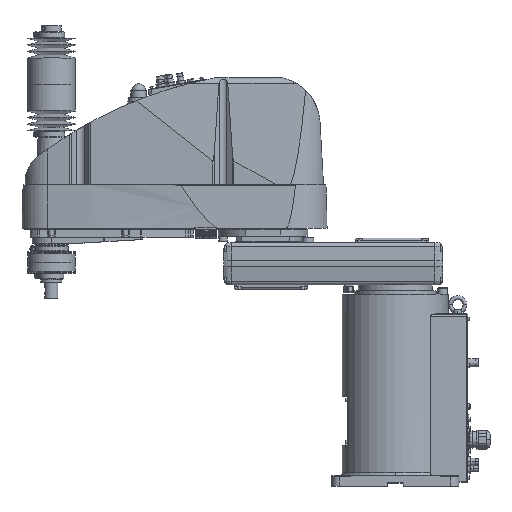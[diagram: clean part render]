
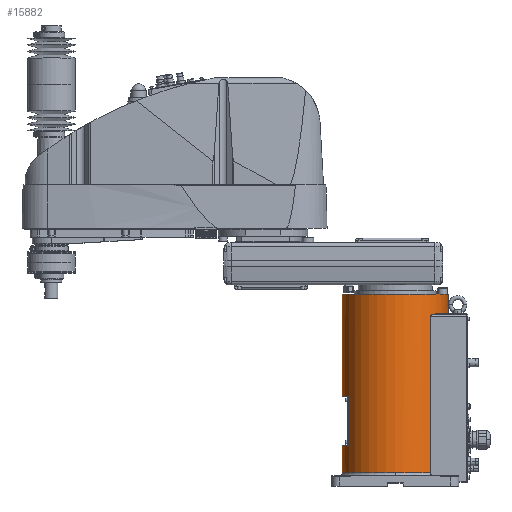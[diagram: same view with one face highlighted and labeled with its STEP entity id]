
A CAD part, top view. The second image highlights one B-rep face of the part: STEP entity #15882.
In plain terms, the highlighted cylindrical face has radius 100 mm (diameter 200 mm), a partial arc.
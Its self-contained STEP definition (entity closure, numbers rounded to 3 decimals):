
#10956 = EDGE_CURVE( '', #28954, #30858, #32714, .T. );
#11918 = EDGE_CURVE( '', #21678, #32656, #33778, .T. );
#12090 = EDGE_CURVE( '', #13368, #28954, #33971, .T. );
#12866 = EDGE_CURVE( '', #29174, #16262, #34843, .T. );
#13368 = VERTEX_POINT( '', #35395 );
#14884 = EDGE_CURVE( '', #19096, #32512, #37093, .T. );
#15882 = ADVANCED_FACE( '', ( #38206 ), #38207, .T. );
#16262 = VERTEX_POINT( '', #38644 );
#16826 = VERTEX_POINT( '', #39275 );
#16960 = EDGE_CURVE( '', #16826, #22530, #39421, .T. );
#17892 = EDGE_CURVE( '', #29956, #32512, #40458, .T. );
#19090 = EDGE_CURVE( '', #26836, #25970, #41776, .T. );
#19096 = VERTEX_POINT( '', #41783 );
#19926 = EDGE_CURVE( '', #25970, #30820, #42709, .T. );
#21662 = EDGE_CURVE( '', #32656, #29174, #44651, .T. );
#21678 = VERTEX_POINT( '', #44667 );
#22530 = VERTEX_POINT( '', #45606 );
#22910 = EDGE_CURVE( '', #30820, #16826, #46022, .T. );
#25970 = VERTEX_POINT( '', #49434 );
#26836 = VERTEX_POINT( '', #50392 );
#28592 = EDGE_CURVE( '', #22530, #32080, #52357, .T. );
#28936 = EDGE_CURVE( '', #30858, #21678, #52733, .T. );
#28954 = VERTEX_POINT( '', #52756 );
#29174 = VERTEX_POINT( '', #52998 );
#29956 = VERTEX_POINT( '', #53865 );
#30820 = VERTEX_POINT( '', #54826 );
#30858 = VERTEX_POINT( '', #54868 );
#31008 = EDGE_CURVE( '', #16262, #19096, #55034, .T. );
#31774 = EDGE_CURVE( '', #32080, #13368, #55891, .T. );
#32080 = VERTEX_POINT( '', #56241 );
#32270 = EDGE_CURVE( '', #29956, #26836, #56452, .T. );
#32512 = VERTEX_POINT( '', #56725 );
#32656 = VERTEX_POINT( '', #56885 );
#32714 = B_SPLINE_CURVE_WITH_KNOTS( '', 3, ( #56948, #56949, #56950, #56951, #56952, #56953, #56954, #56955, #56956, #56957, #56958, #56959, #56960, #56961, #56962, #56963, #56964, #56965 ), .UNSPECIFIED., .F., .F., ( 4, 2, 2, 2, 2, 2, 2, 2, 4 ), ( 14.722, 15.472, 16.222, 16.971, 17.721, 18.842, 19.962, 21.082, 22.202 ), .UNSPECIFIED. );
#33778 = LINE( '', #58561, #58562 );
#33971 = LINE( '', #58823, #58824 );
#34843 = LINE( '', #60133, #60134 );
#35395 = CARTESIAN_POINT( '', ( 66.144, 25., 75. ) );
#37093 = LINE( '', #63490, #63491 );
#38206 = FACE_OUTER_BOUND( '', #65117, .T. );
#38207 = CYLINDRICAL_SURFACE( '', #65118, 100. );
#38644 = CARTESIAN_POINT( '', ( 89.303, 324., 45. ) );
#39275 = CARTESIAN_POINT( '', ( -100., 76.7, 0. ) );
#39421 = LINE( '', #66877, #66878 );
#40458 = CIRCLE( '', #68410, 100. );
#41776 = CIRCLE( '', #70374, 100. );
#41783 = CARTESIAN_POINT( '', ( 100., 324., 0. ) );
#42709 = LINE( '', #71694, #71695 );
#44651 = CIRCLE( '', #74531, 100. );
#44667 = CARTESIAN_POINT( '', ( 75.993, 324., 65. ) );
#45606 = CARTESIAN_POINT( '', ( -100., 25., 0. ) );
#46022 = CIRCLE( '', #76621, 100. );
#49434 = CARTESIAN_POINT( '', ( -88., 169.7, 47.497 ) );
#50392 = CARTESIAN_POINT( '', ( -100., 169.7, 0. ) );
#52357 = CIRCLE( '', #85876, 100. );
#52733 = CIRCLE( '', #86437, 100. );
#52756 = CARTESIAN_POINT( '', ( 66.144, 320., 75. ) );
#52998 = CARTESIAN_POINT( '', ( 89.303, 326., 45. ) );
#53865 = CARTESIAN_POINT( '', ( -100., 363., 0. ) );
#54826 = CARTESIAN_POINT( '', ( -88., 76.7, 47.497 ) );
#54868 = CARTESIAN_POINT( '', ( 70.42, 324., 71. ) );
#55034 = CIRCLE( '', #89936, 100. );
#55891 = CIRCLE( '', #91134, 100. );
#56241 = CARTESIAN_POINT( '', ( 0., 25., 100. ) );
#56452 = LINE( '', #91991, #91992 );
#56725 = CARTESIAN_POINT( '', ( 100., 363., 0. ) );
#56885 = CARTESIAN_POINT( '', ( 75.993, 326., 65. ) );
#56948 = CARTESIAN_POINT( '', ( 66.144, 320., 75. ) );
#56949 = CARTESIAN_POINT( '', ( 66.144, 320.25, 75. ) );
#56950 = CARTESIAN_POINT( '', ( 66.171, 320.503, 74.976 ) );
#56951 = CARTESIAN_POINT( '', ( 66.277, 320.995, 74.882 ) );
#56952 = CARTESIAN_POINT( '', ( 66.356, 321.234, 74.812 ) );
#56953 = CARTESIAN_POINT( '', ( 66.555, 321.685, 74.636 ) );
#56954 = CARTESIAN_POINT( '', ( 66.674, 321.897, 74.529 ) );
#56955 = CARTESIAN_POINT( '', ( 66.938, 322.284, 74.292 ) );
#56956 = CARTESIAN_POINT( '', ( 67.082, 322.458, 74.162 ) );
#56957 = CARTESIAN_POINT( '', ( 67.446, 322.842, 73.831 ) );
#56958 = CARTESIAN_POINT( '', ( 67.688, 323.046, 73.61 ) );
#56959 = CARTESIAN_POINT( '', ( 68.203, 323.396, 73.134 ) );
#56960 = CARTESIAN_POINT( '', ( 68.475, 323.543, 72.879 ) );
#56961 = CARTESIAN_POINT( '', ( 69.031, 323.776, 72.352 ) );
#56962 = CARTESIAN_POINT( '', ( 69.316, 323.861, 72.08 ) );
#56963 = CARTESIAN_POINT( '', ( 69.877, 323.974, 71.535 ) );
#56964 = CARTESIAN_POINT( '', ( 70.155, 324., 71.263 ) );
#56965 = CARTESIAN_POINT( '', ( 70.42, 324., 71. ) );
#58561 = CARTESIAN_POINT( '', ( 75.993, 325., 65. ) );
#58562 = VECTOR( '', #93861, 1. );
#58823 = CARTESIAN_POINT( '', ( 66.144, 172.5, 75. ) );
#58824 = VECTOR( '', #94085, 1. );
#60133 = CARTESIAN_POINT( '', ( 89.303, 325., 45. ) );
#60134 = VECTOR( '', #95129, 1. );
#63490 = CARTESIAN_POINT( '', ( 100., 194., 0. ) );
#63491 = VECTOR( '', #97669, 1. );
#65117 = EDGE_LOOP( '', ( #99035, #99036, #99037, #99038, #99039, #99040, #99041, #99042, #99043, #99044, #99045, #99046, #99047, #99048, #99049, #99050 ) );
#65118 = AXIS2_PLACEMENT_3D( '', #99051, #99052, #99053 );
#66877 = CARTESIAN_POINT( '', ( -100., 194., 0. ) );
#66878 = VECTOR( '', #100518, 1. );
#68410 = AXIS2_PLACEMENT_3D( '', #101713, #101714, #101715 );
#70374 = AXIS2_PLACEMENT_3D( '', #103241, #103242, #103243 );
#71694 = CARTESIAN_POINT( '', ( -88., 123.2, 47.497 ) );
#71695 = VECTOR( '', #104348, 1. );
#74531 = AXIS2_PLACEMENT_3D( '', #106572, #106573, #106574 );
#76621 = AXIS2_PLACEMENT_3D( '', #108047, #108048, #108049 );
#85876 = AXIS2_PLACEMENT_3D( '', #115263, #115264, #115265 );
#86437 = AXIS2_PLACEMENT_3D( '', #115692, #115693, #115694 );
#89936 = AXIS2_PLACEMENT_3D( '', #118298, #118299, #118300 );
#91134 = AXIS2_PLACEMENT_3D( '', #119307, #119308, #119309 );
#91991 = CARTESIAN_POINT( '', ( -100., 194., 0. ) );
#91992 = VECTOR( '', #119954, 1. );
#93861 = DIRECTION( '', ( 0., 1., 0. ) );
#94085 = DIRECTION( '', ( 0., 1., 0. ) );
#95129 = DIRECTION( '', ( 0., -1., 0. ) );
#97669 = DIRECTION( '', ( 0., 1., 0. ) );
#99035 = ORIENTED_EDGE( '', *, *, #14884, .T. );
#99036 = ORIENTED_EDGE( '', *, *, #17892, .F. );
#99037 = ORIENTED_EDGE( '', *, *, #32270, .T. );
#99038 = ORIENTED_EDGE( '', *, *, #19090, .T. );
#99039 = ORIENTED_EDGE( '', *, *, #19926, .T. );
#99040 = ORIENTED_EDGE( '', *, *, #22910, .T. );
#99041 = ORIENTED_EDGE( '', *, *, #16960, .T. );
#99042 = ORIENTED_EDGE( '', *, *, #28592, .T. );
#99043 = ORIENTED_EDGE( '', *, *, #31774, .T. );
#99044 = ORIENTED_EDGE( '', *, *, #12090, .T. );
#99045 = ORIENTED_EDGE( '', *, *, #10956, .T. );
#99046 = ORIENTED_EDGE( '', *, *, #28936, .T. );
#99047 = ORIENTED_EDGE( '', *, *, #11918, .T. );
#99048 = ORIENTED_EDGE( '', *, *, #21662, .T. );
#99049 = ORIENTED_EDGE( '', *, *, #12866, .T. );
#99050 = ORIENTED_EDGE( '', *, *, #31008, .T. );
#99051 = CARTESIAN_POINT( '', ( 0., 194., 0. ) );
#99052 = DIRECTION( '', ( 0., -1., 0. ) );
#99053 = DIRECTION( '', ( 1., 0., 0. ) );
#100518 = DIRECTION( '', ( 0., -1., 0. ) );
#101713 = CARTESIAN_POINT( '', ( 0., 363., 0. ) );
#101714 = DIRECTION( '', ( 0., 1., 0. ) );
#101715 = DIRECTION( '', ( 1., 0., 0. ) );
#103241 = CARTESIAN_POINT( '', ( 0., 169.7, 0. ) );
#103242 = DIRECTION( '', ( 0., 1., 0. ) );
#103243 = DIRECTION( '', ( 1., 0., 0. ) );
#104348 = DIRECTION( '', ( 0., -1., 0. ) );
#106572 = CARTESIAN_POINT( '', ( 0., 326., 0. ) );
#106573 = DIRECTION( '', ( 0., 1., 0. ) );
#106574 = DIRECTION( '', ( 1., 0., 0. ) );
#108047 = CARTESIAN_POINT( '', ( 0., 76.7, 0. ) );
#108048 = DIRECTION( '', ( 0., -1., 0. ) );
#108049 = DIRECTION( '', ( 1., 0., 0. ) );
#115263 = CARTESIAN_POINT( '', ( 0., 25., 0. ) );
#115264 = DIRECTION( '', ( 0., 1., 0. ) );
#115265 = DIRECTION( '', ( 1., 0., 0. ) );
#115692 = CARTESIAN_POINT( '', ( 0., 324., 0. ) );
#115693 = DIRECTION( '', ( 0., 1., 0. ) );
#115694 = DIRECTION( '', ( 1., 0., 0. ) );
#118298 = CARTESIAN_POINT( '', ( 0., 324., 0. ) );
#118299 = DIRECTION( '', ( 0., 1., 0. ) );
#118300 = DIRECTION( '', ( 1., 0., 0. ) );
#119307 = CARTESIAN_POINT( '', ( 0., 25., 0. ) );
#119308 = DIRECTION( '', ( 0., 1., 0. ) );
#119309 = DIRECTION( '', ( 1., 0., 0. ) );
#119954 = DIRECTION( '', ( 0., -1., 0. ) );
